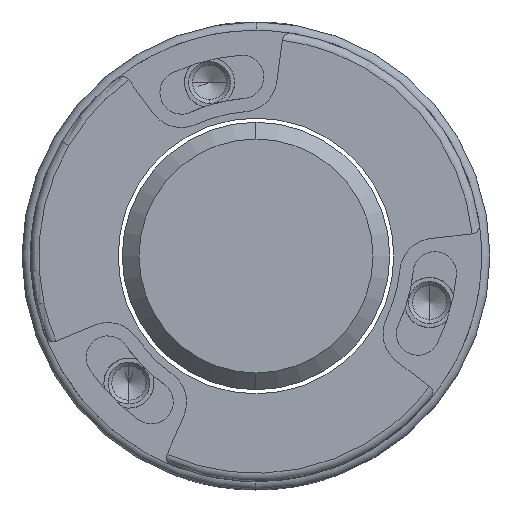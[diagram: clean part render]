
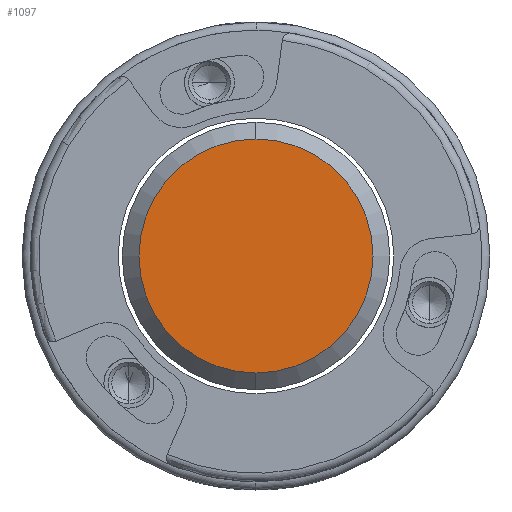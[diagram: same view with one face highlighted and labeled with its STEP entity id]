
A CAD part, left-side view. The second image highlights one B-rep face of the part: STEP entity #1097.
In plain terms, the highlighted planar face has unit normal (-1, 0, 0).
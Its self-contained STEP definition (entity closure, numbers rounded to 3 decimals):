
#146 = EDGE_CURVE ( 'NONE', #3323, #682, #832, .T. ) ;
#163 = CARTESIAN_POINT ( 'NONE',  ( -10., 0., 0. ) ) ;
#682 = VERTEX_POINT ( 'NONE', #1070 ) ;
#725 = AXIS2_PLACEMENT_3D ( 'NONE', #2674, #2697, #3356 ) ;
#832 = CIRCLE ( 'NONE', #1608, 7. ) ;
#1070 = CARTESIAN_POINT ( 'NONE',  ( -10., 0., 7. ) ) ;
#1097 = ADVANCED_FACE ( 'NONE', ( #7470 ), #2036, .T. ) ;
#1321 = DIRECTION ( 'NONE',  ( -1., 0., 0. ) ) ;
#1608 = AXIS2_PLACEMENT_3D ( 'NONE', #163, #1321, #5343 ) ;
#1767 = EDGE_CURVE ( 'NONE', #682, #3323, #6563, .T. ) ;
#2036 = PLANE ( 'NONE',  #725 ) ;
#2356 = ORIENTED_EDGE ( 'NONE', *, *, #146, .T. ) ;
#2530 = AXIS2_PLACEMENT_3D ( 'NONE', #4353, #6662, #2585 ) ;
#2585 = DIRECTION ( 'NONE',  ( 0., 0., 1. ) ) ;
#2674 = CARTESIAN_POINT ( 'NONE',  ( -10., 0., 0. ) ) ;
#2697 = DIRECTION ( 'NONE',  ( -1., 0., 0. ) ) ;
#3057 = ORIENTED_EDGE ( 'NONE', *, *, #1767, .T. ) ;
#3323 = VERTEX_POINT ( 'NONE', #3741 ) ;
#3356 = DIRECTION ( 'NONE',  ( 0., 0., 1. ) ) ;
#3741 = CARTESIAN_POINT ( 'NONE',  ( -10., 0., -7. ) ) ;
#4353 = CARTESIAN_POINT ( 'NONE',  ( -10., 0., 0. ) ) ;
#5311 = EDGE_LOOP ( 'NONE', ( #2356, #3057 ) ) ;
#5343 = DIRECTION ( 'NONE',  ( 0., 0., 1. ) ) ;
#6563 = CIRCLE ( 'NONE', #2530, 7. ) ;
#6662 = DIRECTION ( 'NONE',  ( -1., 0., 0. ) ) ;
#7470 = FACE_OUTER_BOUND ( 'NONE', #5311, .T. ) ;
